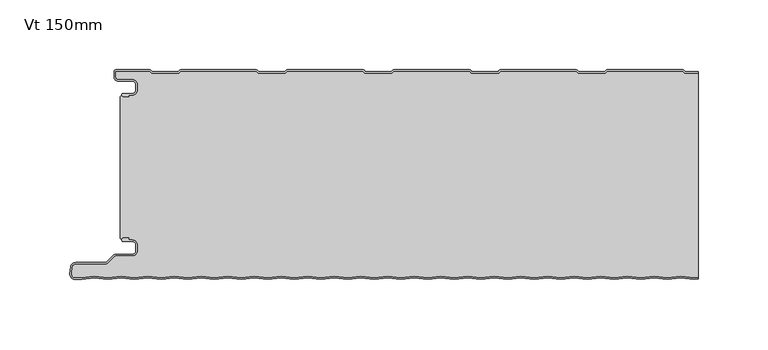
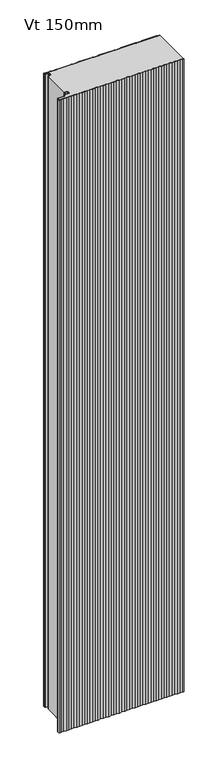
"""IFC4 building model written with IfcOpenShell, lengths in millimetres: plate geometry, KIP-MEX-KSS-1067-R19-CP-Vt-MR_SL : Vt 150mm."""

from ifc_helpers import new_model, si_unit, point, frame, frame_2d, origin, origin_with_axes, place, context, project, spatial, polyline, circle_curve, trimmed, segment, composite_curve, outline, extrude, source, transform, mapped, element, save
from ifc_brep_helpers import plane_surface, cylinder_surface, revolved_surface, advanced_brep


def vt_150mm_58a6ca3a(model_context):
    return source(origin(), model_context, "Body", "SolidModel", [
        advanced_brep(
        [(-204.468691, -17.0015159, 2400.0), (-205.4686883, -18.0015191, 2400.0), (-204.468691, -19.0015105, 2400.0), (-200.4684874, -19.0015105, 2400.0), (-200.4684874, -18.0015159, 2400.0), (-197.7762776, -18.0015159, 2400.0), (-194.4762819, -14.7015202, 2400.0), (-194.4762819, -10.301529, 2400.0), (-197.7762774, -7.0015335, 2400.0), (-208.1962563, -7.0015335, 2400.0), (-209.9662505, -5.2315393, 2400.0), (-209.9662505, -0.9999916, 2400.0), (-185.4659738, -0.9999916, 2400.0), (-184.0803312, -2.2002307, 2400.0), (-164.7051649, -2.2002307, 2400.0), (-163.319532, -1.0, 2400.0), (-109.2661166, -1.0, 2400.0), (-107.8804836, -2.2002307, 2400.0), (-88.5053173, -2.2002307, 2400.0), (-87.1196844, -1.0, 2400.0), (-33.066269, -1.0, 2400.0), (-31.680636, -2.2002307, 2400.0), (-12.3054697, -2.2002307, 2400.0), (-10.9198368, -1.0, 2400.0), (43.1335786, -1.0, 2400.0), (44.5192116, -2.2002307, 2400.0), (63.8943779, -2.2002307, 2400.0), (65.2800108, -1.0, 2400.0), (119.3334262, -1.0, 2400.0), (120.7190592, -2.2002307, 2400.0), (140.0942255, -2.2002307, 2400.0), (141.4798584, -1.0, 2400.0), (195.5332738, -1.0, 2400.0), (196.9189068, -2.2002307, 2400.0), (206.4999998, -2.2002307, 2400.0), (206.4999998, -1.2002307, 2400.0), (197.2917872, -1.2002307, 2400.0), (196.3007396, -0.3417885, 2400.0), (195.3841227, 0.0, 2400.0), (141.6290096, 0.0, 2400.0), (140.7123927, -0.3417885, 2400.0), (139.7213451, -1.2002307, 2400.0), (121.0919396, -1.2002307, 2400.0), (120.100892, -0.3417885, 2400.0), (119.1842751, 0.0, 2400.0), (65.429162, 0.0, 2400.0), (64.5125451, -0.3417885, 2400.0), (63.5214975, -1.2002307, 2400.0), (44.892092, -1.2002307, 2400.0), (43.9010444, -0.3417885, 2400.0), (42.9844275, 0.0, 2400.0), (-10.7706856, 0.0, 2400.0), (-11.6873025, -0.3417885, 2400.0), (-12.6783501, -1.2002307, 2400.0), (-31.3077556, -1.2002307, 2400.0), (-32.2988032, -0.3417885, 2400.0), (-33.2154201, 0.0, 2400.0), (-86.9705332, 0.0, 2400.0), (-87.8871501, -0.3417885, 2400.0), (-88.8781977, -1.2002307, 2400.0), (-107.5076032, -1.2002307, 2400.0), (-108.4986508, -0.3417885, 2400.0), (-109.4152677, 0.0, 2400.0), (-163.1703808, 0.0, 2400.0), (-164.0869977, -0.3417885, 2400.0), (-165.0780453, -1.2002307, 2400.0), (-183.7074508, -1.2002307, 2400.0), (-184.6984984, -0.3417885, 2400.0), (-185.6152067, 0.0, 2400.0), (-209.5662543, 8.4e-06, 2400.0), (-210.9662505, -1.3999878, 2400.0), (-210.9662505, -5.2315393, 2400.0), (-208.1962563, -8.0015335, 2400.0), (-197.7762774, -8.0015335, 2400.0), (-195.4762819, -10.301529, 2400.0), (-195.4762819, -14.7015202, 2400.0), (-197.7762776, -17.0015159, 2400.0), (-204.468691, -17.0015159, 0.0), (-197.7762776, -17.0015159, 0.0), (-195.4762819, -14.7015202, 0.0), (-195.4762819, -10.301529, 0.0), (-197.7762774, -8.0015335, 0.0), (-208.1962563, -8.0015335, 0.0), (-210.9662505, -5.2315393, 0.0), (-210.9662505, -1.3999878, 0.0), (-209.5662543, 8.4e-06, 0.0), (-185.6151153, 8.4e-06, 0.0), (-184.6984984, -0.3417885, 0.0), (-183.7074508, -1.2002307, 0.0), (-165.0780453, -1.2002307, 0.0), (-164.0869977, -0.3417885, 0.0), (-163.1703808, 0.0, 0.0), (-109.4152677, 0.0, 0.0), (-108.4986508, -0.3417885, 0.0), (-107.5076032, -1.2002307, 0.0), (-88.8781977, -1.2002307, 0.0), (-87.8871501, -0.3417885, 0.0), (-86.9705332, 0.0, 0.0), (-33.2154201, 0.0, 0.0), (-32.2988032, -0.3417885, 0.0), (-31.3077556, -1.2002307, 0.0), (-12.6783501, -1.2002307, 0.0), (-11.6873025, -0.3417885, 0.0), (-10.7706856, 0.0, 0.0), (42.9844275, 0.0, 0.0), (43.9010444, -0.3417885, 0.0), (44.892092, -1.2002307, 0.0), (63.5214975, -1.2002307, 0.0), (64.5125451, -0.3417885, 0.0), (65.429162, 0.0, 0.0), (119.1842751, 0.0, 0.0), (120.100892, -0.3417885, 0.0), (121.0919396, -1.2002307, 0.0), (139.7213451, -1.2002307, 0.0), (140.7123927, -0.3417885, 0.0), (141.6290096, 0.0, 0.0), (195.3841227, 0.0, 0.0), (196.3007396, -0.3417885, 0.0), (197.2917872, -1.2002307, 0.0), (206.4999998, -1.2002307, 0.0), (206.4999998, -2.2002307, 0.0), (196.9189068, -2.2002307, 0.0), (195.5332738, -1.0, 0.0), (141.4798584, -1.0, 0.0), (140.0942255, -2.2002307, 0.0), (120.7190592, -2.2002307, 0.0), (119.3334262, -1.0, 0.0), (65.2800108, -1.0, 0.0), (63.8943779, -2.2002307, 0.0), (44.5192116, -2.2002307, 0.0), (43.1335786, -1.0, 0.0), (-10.9198368, -1.0, 0.0), (-12.3054697, -2.2002307, 0.0), (-31.680636, -2.2002307, 0.0), (-33.066269, -1.0, 0.0), (-87.1196844, -1.0, 0.0), (-88.5053173, -2.2002307, 0.0), (-107.8804836, -2.2002307, 0.0), (-109.2661166, -1.0, 0.0), (-163.319532, -1.0, 0.0), (-164.7051649, -2.2002307, 0.0), (-184.0803312, -2.2002307, 0.0), (-185.4659738, -0.9999916, 0.0), (-209.9662505, -0.9999916, 0.0), (-209.9662505, -5.2315393, 0.0), (-208.1962563, -7.0015335, 0.0), (-197.7762774, -7.0015335, 0.0), (-194.4762819, -10.301529, 0.0), (-194.4762819, -14.7015202, 0.0), (-197.7762776, -18.0015159, 0.0), (-200.4684874, -18.0015159, 0.0), (-200.4684874, -19.0015105, 0.0), (-204.468691, -19.0015105, 0.0), (-205.4686882, -18.0015192, 0.0)],
        [
            (0, 1, circle_curve(frame((-204.468691, -18.0015132, 2400.0), z_axis=(0.0, 0.0, 1.0), x_axis=(1.0, 0.0, 0.0)), 0.9999973)),
            (1, 2, circle_curve(frame((-204.468691, -18.0015133, 2400.0), z_axis=(0.0, 0.0, 1.0), x_axis=(1.0, 0.0, 0.0)), 0.9999972)),
            (2, 3),
            (3, 4),
            (4, 5),
            (5, 6, circle_curve(frame((-197.7762776, -14.7015202, 2400.0), z_axis=(0.0, 0.0, 1.0), x_axis=(1.0, 0.0, 0.0)), 3.2999957)),
            (6, 7),
            (7, 8, circle_curve(frame((-197.7762774, -10.301529, 2400.0), z_axis=(0.0, 0.0, 1.0), x_axis=(1.0, 0.0, 0.0)), 3.2999955)),
            (8, 9),
            (9, 10, circle_curve(frame((-208.1962563, -5.2315393, 2400.0), z_axis=(0.0, 0.0, -1.0), x_axis=(1.0, 0.0, 0.0)), 1.7699942)),
            (10, 11),
            (11, 12),
            (12, 13),
            (13, 14),
            (14, 15),
            (15, 16),
            (16, 17),
            (17, 18),
            (18, 19),
            (19, 20),
            (20, 21),
            (21, 22),
            (22, 23),
            (23, 24),
            (24, 25),
            (25, 26),
            (26, 27),
            (27, 28),
            (28, 29),
            (29, 30),
            (30, 31),
            (31, 32),
            (32, 33),
            (33, 34),
            (34, 35),
            (35, 36),
            (36, 37),
            (37, 38, circle_curve(frame((195.3841227, -1.3999972, 2400.0), z_axis=(0.0, 0.0, 1.0), x_axis=(1.0, 0.0, 0.0)), 1.3999972)),
            (38, 39),
            (39, 40, circle_curve(frame((141.6290096, -1.3999972, 2400.0), z_axis=(0.0, 0.0, 1.0), x_axis=(1.0, 0.0, 0.0)), 1.3999972)),
            (40, 41),
            (41, 42),
            (42, 43),
            (43, 44, circle_curve(frame((119.1842751, -1.3999972, 2400.0), z_axis=(0.0, 0.0, 1.0), x_axis=(1.0, 0.0, 0.0)), 1.3999972)),
            (44, 45),
            (45, 46, circle_curve(frame((65.429162, -1.3999972, 2400.0), z_axis=(0.0, 0.0, 1.0), x_axis=(1.0, 0.0, 0.0)), 1.3999972)),
            (46, 47),
            (47, 48),
            (48, 49),
            (49, 50, circle_curve(frame((42.9844275, -1.3999972, 2400.0), z_axis=(0.0, 0.0, 1.0), x_axis=(1.0, 0.0, 0.0)), 1.3999972)),
            (50, 51),
            (51, 52, circle_curve(frame((-10.7706856, -1.3999972, 2400.0), z_axis=(0.0, 0.0, 1.0), x_axis=(1.0, 0.0, 0.0)), 1.3999972)),
            (52, 53),
            (53, 54),
            (54, 55),
            (55, 56, circle_curve(frame((-33.2154201, -1.3999972, 2400.0), z_axis=(0.0, 0.0, 1.0), x_axis=(1.0, 0.0, 0.0)), 1.3999972)),
            (56, 57),
            (57, 58, circle_curve(frame((-86.9705332, -1.3999972, 2400.0), z_axis=(0.0, 0.0, 1.0), x_axis=(1.0, 0.0, 0.0)), 1.3999972)),
            (58, 59),
            (59, 60),
            (60, 61),
            (61, 62, circle_curve(frame((-109.4152677, -1.3999972, 2400.0), z_axis=(0.0, 0.0, 1.0), x_axis=(1.0, 0.0, 0.0)), 1.3999972)),
            (62, 63),
            (63, 64, circle_curve(frame((-163.1703808, -1.3999972, 2400.0), z_axis=(0.0, 0.0, 1.0), x_axis=(1.0, 0.0, 0.0)), 1.3999972)),
            (64, 65),
            (65, 66),
            (66, 67),
            (67, 68, circle_curve(frame((-185.6151153, -1.3999972, 2400.0), z_axis=(0.0, 0.0, 1.0), x_axis=(1.0, 0.0, 0.0)), 1.3999972)),
            (68, 69),
            (69, 70, circle_curve(frame((-209.5662543, -1.3999878, 2400.0), z_axis=(0.0, 0.0, 1.0), x_axis=(1.0, 0.0, 0.0)), 1.3999962)),
            (70, 71),
            (71, 72, circle_curve(frame((-208.1962563, -5.2315393, 2400.0), z_axis=(0.0, 0.0, 1.0), x_axis=(1.0, 0.0, 0.0)), 2.7699942)),
            (72, 73),
            (73, 74, circle_curve(frame((-197.7762774, -10.301529, 2400.0), z_axis=(0.0, 0.0, -1.0), x_axis=(1.0, 0.0, 0.0)), 2.2999955)),
            (74, 75),
            (75, 76, circle_curve(frame((-197.7762776, -14.7015202, 2400.0), z_axis=(0.0, 0.0, -1.0), x_axis=(1.0, 0.0, 0.0)), 2.2999957)),
            (76, 0),
            (77, 78),
            (78, 79, circle_curve(frame((-197.7762776, -14.7015202, 0.0), z_axis=(0.0, 0.0, 1.0), x_axis=(1.0, 0.0, 0.0)), 2.2999957)),
            (79, 80),
            (80, 81, circle_curve(frame((-197.7762774, -10.301529, 0.0), z_axis=(0.0, 0.0, 1.0), x_axis=(1.0, 0.0, 0.0)), 2.2999955)),
            (81, 82),
            (82, 83, circle_curve(frame((-208.1962563, -5.2315393, 0.0), z_axis=(0.0, 0.0, -1.0), x_axis=(1.0, 0.0, 0.0)), 2.7699942)),
            (83, 84),
            (84, 85, circle_curve(frame((-209.5662543, -1.3999878, 0.0), z_axis=(0.0, 0.0, -1.0), x_axis=(1.0, 0.0, 0.0)), 1.3999962)),
            (85, 86),
            (86, 87, circle_curve(frame((-185.6151153, -1.3999972, 0.0), z_axis=(0.0, 0.0, -1.0), x_axis=(1.0, 0.0, 0.0)), 1.3999972)),
            (87, 88),
            (88, 89),
            (89, 90),
            (90, 91, circle_curve(frame((-163.1703808, -1.3999972, 0.0), z_axis=(0.0, 0.0, -1.0), x_axis=(1.0, 0.0, 0.0)), 1.3999972)),
            (91, 92),
            (92, 93, circle_curve(frame((-109.4152677, -1.3999972, 0.0), z_axis=(0.0, 0.0, -1.0), x_axis=(1.0, 0.0, 0.0)), 1.3999972)),
            (93, 94),
            (94, 95),
            (95, 96),
            (96, 97, circle_curve(frame((-86.9705332, -1.3999972, 0.0), z_axis=(0.0, 0.0, -1.0), x_axis=(1.0, 0.0, 0.0)), 1.3999972)),
            (97, 98),
            (98, 99, circle_curve(frame((-33.2154201, -1.3999972, 0.0), z_axis=(0.0, 0.0, -1.0), x_axis=(1.0, 0.0, 0.0)), 1.3999972)),
            (99, 100),
            (100, 101),
            (101, 102),
            (102, 103, circle_curve(frame((-10.7706856, -1.3999972, 0.0), z_axis=(0.0, 0.0, -1.0), x_axis=(1.0, 0.0, 0.0)), 1.3999972)),
            (103, 104),
            (104, 105, circle_curve(frame((42.9844275, -1.3999972, 0.0), z_axis=(0.0, 0.0, -1.0), x_axis=(1.0, 0.0, 0.0)), 1.3999972)),
            (105, 106),
            (106, 107),
            (107, 108),
            (108, 109, circle_curve(frame((65.429162, -1.3999972, 0.0), z_axis=(0.0, 0.0, -1.0), x_axis=(1.0, 0.0, 0.0)), 1.3999972)),
            (109, 110),
            (110, 111, circle_curve(frame((119.1842751, -1.3999972, 0.0), z_axis=(0.0, 0.0, -1.0), x_axis=(1.0, 0.0, 0.0)), 1.3999972)),
            (111, 112),
            (112, 113),
            (113, 114),
            (114, 115, circle_curve(frame((141.6290096, -1.3999972, 0.0), z_axis=(0.0, 0.0, -1.0), x_axis=(1.0, 0.0, 0.0)), 1.3999972)),
            (115, 116),
            (116, 117, circle_curve(frame((195.3841227, -1.3999972, 0.0), z_axis=(0.0, 0.0, -1.0), x_axis=(1.0, 0.0, 0.0)), 1.3999972)),
            (117, 118),
            (118, 119),
            (119, 120),
            (120, 121),
            (121, 122),
            (122, 123),
            (123, 124),
            (124, 125),
            (125, 126),
            (126, 127),
            (127, 128),
            (128, 129),
            (129, 130),
            (130, 131),
            (131, 132),
            (132, 133),
            (133, 134),
            (134, 135),
            (135, 136),
            (136, 137),
            (137, 138),
            (138, 139),
            (139, 140),
            (140, 141),
            (141, 142),
            (142, 143),
            (143, 144),
            (144, 145, circle_curve(frame((-208.1962563, -5.2315393, 0.0), z_axis=(0.0, 0.0, 1.0), x_axis=(1.0, 0.0, 0.0)), 1.7699942)),
            (145, 146),
            (146, 147, circle_curve(frame((-197.7762774, -10.301529, 0.0), z_axis=(0.0, 0.0, -1.0), x_axis=(1.0, 0.0, 0.0)), 3.2999955)),
            (147, 148),
            (148, 149, circle_curve(frame((-197.7762776, -14.7015202, 0.0), z_axis=(0.0, 0.0, -1.0), x_axis=(1.0, 0.0, 0.0)), 3.2999957)),
            (149, 150),
            (150, 151),
            (151, 152),
            (152, 153, circle_curve(frame((-204.468691, -18.0015133, 0.0), z_axis=(0.0, 0.0, -1.0), x_axis=(1.0, 0.0, 0.0)), 0.9999972)),
            (153, 77, circle_curve(frame((-204.468691, -18.0015132, 0.0), z_axis=(0.0, 0.0, -1.0), x_axis=(1.0, 0.0, 0.0)), 0.9999973)),
            (76, 78),
            (77, 0),
            (75, 79),
            (74, 80),
            (73, 81),
            (72, 82),
            (71, 83),
            (70, 84),
            (69, 85),
            (68, 86),
            (67, 87),
            (66, 88),
            (65, 89),
            (64, 90),
            (63, 91),
            (62, 92),
            (61, 93),
            (60, 94),
            (59, 95),
            (58, 96),
            (57, 97),
            (56, 98),
            (55, 99),
            (54, 100),
            (53, 101),
            (52, 102),
            (51, 103),
            (50, 104),
            (49, 105),
            (48, 106),
            (47, 107),
            (46, 108),
            (45, 109),
            (44, 110),
            (43, 111),
            (42, 112),
            (41, 113),
            (40, 114),
            (39, 115),
            (38, 116),
            (37, 117),
            (36, 118),
            (35, 119),
            (120, 34),
            (33, 121),
            (32, 122),
            (31, 123),
            (30, 124),
            (29, 125),
            (28, 126),
            (27, 127),
            (26, 128),
            (25, 129),
            (24, 130),
            (23, 131),
            (22, 132),
            (21, 133),
            (20, 134),
            (19, 135),
            (18, 136),
            (17, 137),
            (16, 138),
            (15, 139),
            (14, 140),
            (13, 141),
            (12, 142),
            (11, 143),
            (10, 144),
            (9, 145),
            (8, 146),
            (7, 147),
            (6, 148),
            (5, 149),
            (4, 150),
            (3, 151),
            (2, 152),
            (1, 153),
        ],
        [
            plane_surface(frame((326.9000002, 0.0, 2400.0), z_axis=(0.0, 0.0, 1.0), x_axis=(0.0, 1.0, 0.0))),
            plane_surface(frame((326.9000002, 0.0, 0.0), z_axis=(0.0, 0.0, -1.0), x_axis=(0.0, 1.0, 0.0))),
            plane_surface(frame((-204.468691, -17.0015159, 2400.0), z_axis=(0.0, 1.0, 0.0), x_axis=(0.0, 0.0, -1.0))),
            revolved_surface(polyline([(-195.47628189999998, -14.7015202, 0.0), (-195.47628189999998, -14.7015202, 2400.0)]), (-197.7762776, -14.7015202, 2400.0), (0.0, 0.0, -1.0)),
            plane_surface(frame((-195.4762819, -14.7015202, 2400.0), z_axis=(-1.0, 0.0, 0.0), x_axis=(0.0, 0.0, -1.0))),
            revolved_surface(polyline([(-195.4762819, -10.301529, 0.0), (-195.4762819, -10.301529, 2400.0)]), (-197.7762774, -10.301529, 2400.0), (0.0, 0.0, -1.0)),
            plane_surface(frame((-197.7762774, -8.0015335, 2400.0), z_axis=(0.0, -1.0, 0.0), x_axis=(0.0, 0.0, -1.0))),
            cylinder_surface(frame((-208.1962563, -5.2315393, 2400.0), z_axis=(0.0, 0.0, 1.0), x_axis=(1.0, 0.0, 0.0)), 2.7699942),
            plane_surface(frame((-210.9662505, -5.2315393, 2400.0), z_axis=(-1.0, 0.0, 0.0), x_axis=(0.0, 0.0, -1.0))),
            cylinder_surface(frame((-209.5662543, -1.3999878, 2400.0), z_axis=(0.0, 0.0, 1.0), x_axis=(1.0, 0.0, 0.0)), 1.3999962),
            plane_surface(frame((-209.5662543, 8.4e-06, 2400.0), z_axis=(0.0, 1.0, 0.0), x_axis=(0.0, 0.0, -1.0))),
            cylinder_surface(frame((-185.6151153, -1.3999972, 2400.0), z_axis=(0.0, 0.0, 1.0), x_axis=(1.0, 0.0, 0.0)), 1.3999972),
            plane_surface(frame((-184.6984984, -0.3417885, 2400.0), z_axis=(0.6547276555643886, 0.755864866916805, 0.0), x_axis=(0.0, 0.0, -1.0))),
            plane_surface(frame((-174.3927481, -1.2002307, 2400.0), z_axis=(0.0, 1.0, 0.0), x_axis=(0.0, 0.0, -1.0))),
            plane_surface(frame((-165.0780453, -1.2002307, 2400.0), z_axis=(-0.6547276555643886, 0.755864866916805, 0.0), x_axis=(0.0, 0.0, -1.0))),
            cylinder_surface(frame((-163.1703808, -1.3999972, 2400.0), z_axis=(0.0, 0.0, 1.0), x_axis=(1.0, 0.0, 0.0)), 1.3999972),
            plane_surface(frame((-163.1703808, 0.0, 2400.0), z_axis=(0.0, 1.0, 0.0), x_axis=(0.0, 0.0, -1.0))),
            cylinder_surface(frame((-109.4152677, -1.3999972, 2400.0), z_axis=(0.0, 0.0, 1.0), x_axis=(1.0, 0.0, 0.0)), 1.3999972),
            plane_surface(frame((-108.4986508, -0.3417885, 2400.0), z_axis=(0.6547276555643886, 0.755864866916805, 0.0), x_axis=(0.0, 0.0, -1.0))),
            plane_surface(frame((-98.1929005, -1.2002307, 2400.0), z_axis=(0.0, 1.0, 0.0), x_axis=(0.0, 0.0, -1.0))),
            plane_surface(frame((-88.8781977, -1.2002307, 2400.0), z_axis=(-0.6547276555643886, 0.755864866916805, 0.0), x_axis=(0.0, 0.0, -1.0))),
            cylinder_surface(frame((-86.9705332, -1.3999972, 2400.0), z_axis=(0.0, 0.0, 1.0), x_axis=(1.0, 0.0, 0.0)), 1.3999972),
            plane_surface(frame((-86.9705332, 0.0, 2400.0), z_axis=(0.0, 1.0, 0.0), x_axis=(0.0, 0.0, -1.0))),
            cylinder_surface(frame((-33.2154201, -1.3999972, 2400.0), z_axis=(0.0, 0.0, 1.0), x_axis=(1.0, 0.0, 0.0)), 1.3999972),
            plane_surface(frame((-32.2988032, -0.3417885, 2400.0), z_axis=(0.6547276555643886, 0.755864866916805, 0.0), x_axis=(0.0, 0.0, -1.0))),
            plane_surface(frame((-21.9930529, -1.2002307, 2400.0), z_axis=(0.0, 1.0, 0.0), x_axis=(0.0, 0.0, -1.0))),
            plane_surface(frame((-12.6783501, -1.2002307, 2400.0), z_axis=(-0.6547276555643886, 0.755864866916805, 0.0), x_axis=(0.0, 0.0, -1.0))),
            cylinder_surface(frame((-10.7706856, -1.3999972, 2400.0), z_axis=(0.0, 0.0, 1.0), x_axis=(1.0, 0.0, 0.0)), 1.3999972),
            plane_surface(frame((-10.7706856, 0.0, 2400.0), z_axis=(0.0, 1.0, 0.0), x_axis=(0.0, 0.0, -1.0))),
            cylinder_surface(frame((42.9844275, -1.3999972, 2400.0), z_axis=(0.0, 0.0, 1.0), x_axis=(1.0, 0.0, 0.0)), 1.3999972),
            plane_surface(frame((43.9010444, -0.3417885, 2400.0), z_axis=(0.6547276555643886, 0.755864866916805, 0.0), x_axis=(0.0, 0.0, -1.0))),
            plane_surface(frame((54.2067947, -1.2002307, 2400.0), z_axis=(0.0, 1.0, 0.0), x_axis=(0.0, 0.0, -1.0))),
            plane_surface(frame((63.5214975, -1.2002307, 2400.0), z_axis=(-0.6547276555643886, 0.755864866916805, 0.0), x_axis=(0.0, 0.0, -1.0))),
            cylinder_surface(frame((65.429162, -1.3999972, 2400.0), z_axis=(0.0, 0.0, 1.0), x_axis=(1.0, 0.0, 0.0)), 1.3999972),
            plane_surface(frame((65.429162, 0.0, 2400.0), z_axis=(0.0, 1.0, 0.0), x_axis=(0.0, 0.0, -1.0))),
            cylinder_surface(frame((119.1842751, -1.3999972, 2400.0), z_axis=(0.0, 0.0, 1.0), x_axis=(1.0, 0.0, 0.0)), 1.3999972),
            plane_surface(frame((120.100892, -0.3417885, 2400.0), z_axis=(0.6547276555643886, 0.755864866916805, 0.0), x_axis=(0.0, 0.0, -1.0))),
            plane_surface(frame((130.4066423, -1.2002307, 2400.0), z_axis=(0.0, 1.0, 0.0), x_axis=(0.0, 0.0, -1.0))),
            plane_surface(frame((139.7213451, -1.2002307, 2400.0), z_axis=(-0.6547276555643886, 0.755864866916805, 0.0), x_axis=(0.0, 0.0, -1.0))),
            cylinder_surface(frame((141.6290096, -1.3999972, 2400.0), z_axis=(0.0, 0.0, 1.0), x_axis=(1.0, 0.0, 0.0)), 1.3999972),
            plane_surface(frame((141.6290096, 0.0, 2400.0), z_axis=(0.0, 1.0, 0.0), x_axis=(0.0, 0.0, -1.0))),
            cylinder_surface(frame((195.3841227, -1.3999972, 2400.0), z_axis=(0.0, 0.0, 1.0), x_axis=(1.0, 0.0, 0.0)), 1.3999972),
            plane_surface(frame((196.3007396, -0.3417885, 2400.0), z_axis=(0.6547276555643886, 0.755864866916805, 0.0), x_axis=(0.0, 0.0, -1.0))),
            plane_surface(frame((206.6064899, -1.2002307, 2400.0), z_axis=(0.0, 1.0, 0.0), x_axis=(0.0, 0.0, -1.0))),
            plane_surface(frame((216.2940731, -2.2002307, 2400.0), z_axis=(0.0, -1.0, 0.0), x_axis=(0.0, 0.0, -1.0))),
            plane_surface(frame((196.9189068, -2.2002307, 2400.0), z_axis=(-0.6547276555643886, -0.755864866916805, 0.0), x_axis=(0.0, 0.0, -1.0))),
            plane_surface(frame((195.5332738, -1.0, 2400.0), z_axis=(0.0, -1.0, 0.0), x_axis=(0.0, 0.0, -1.0))),
            plane_surface(frame((141.4798584, -1.0, 2400.0), z_axis=(0.6547276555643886, -0.755864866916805, 0.0), x_axis=(0.0, 0.0, -1.0))),
            plane_surface(frame((140.0942255, -2.2002307, 2400.0), z_axis=(0.0, -1.0, 0.0), x_axis=(0.0, 0.0, -1.0))),
            plane_surface(frame((120.7190592, -2.2002307, 2400.0), z_axis=(-0.6547276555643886, -0.755864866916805, 0.0), x_axis=(0.0, 0.0, -1.0))),
            plane_surface(frame((119.3334262, -1.0, 2400.0), z_axis=(0.0, -1.0, 0.0), x_axis=(0.0, 0.0, -1.0))),
            plane_surface(frame((65.2800108, -1.0, 2400.0), z_axis=(0.6547276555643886, -0.755864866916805, 0.0), x_axis=(0.0, 0.0, -1.0))),
            plane_surface(frame((63.8943779, -2.2002307, 2400.0), z_axis=(0.0, -1.0, 0.0), x_axis=(0.0, 0.0, -1.0))),
            plane_surface(frame((44.5192116, -2.2002307, 2400.0), z_axis=(-0.6547276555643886, -0.755864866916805, 0.0), x_axis=(0.0, 0.0, -1.0))),
            plane_surface(frame((43.1335786, -1.0, 2400.0), z_axis=(0.0, -1.0, 0.0), x_axis=(0.0, 0.0, -1.0))),
            plane_surface(frame((-10.9198368, -1.0, 2400.0), z_axis=(0.6547276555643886, -0.755864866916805, 0.0), x_axis=(0.0, 0.0, -1.0))),
            plane_surface(frame((-12.3054697, -2.2002307, 2400.0), z_axis=(0.0, -1.0, 0.0), x_axis=(0.0, 0.0, -1.0))),
            plane_surface(frame((-31.680636, -2.2002307, 2400.0), z_axis=(-0.6547276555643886, -0.755864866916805, 0.0), x_axis=(0.0, 0.0, -1.0))),
            plane_surface(frame((-33.066269, -1.0, 2400.0), z_axis=(0.0, -1.0, 0.0), x_axis=(0.0, 0.0, -1.0))),
            plane_surface(frame((-87.1196844, -1.0, 2400.0), z_axis=(0.6547276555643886, -0.755864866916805, 0.0), x_axis=(0.0, 0.0, -1.0))),
            plane_surface(frame((-88.5053173, -2.2002307, 2400.0), z_axis=(0.0, -1.0, 0.0), x_axis=(0.0, 0.0, -1.0))),
            plane_surface(frame((-107.8804836, -2.2002307, 2400.0), z_axis=(-0.6547276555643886, -0.755864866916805, 0.0), x_axis=(0.0, 0.0, -1.0))),
            plane_surface(frame((-109.2661166, -1.0, 2400.0), z_axis=(0.0, -1.0, 0.0), x_axis=(0.0, 0.0, -1.0))),
            plane_surface(frame((-163.319532, -1.0, 2400.0), z_axis=(0.6547276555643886, -0.755864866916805, 0.0), x_axis=(0.0, 0.0, -1.0))),
            plane_surface(frame((-164.7051649, -2.2002307, 2400.0), z_axis=(0.0, -1.0, 0.0), x_axis=(0.0, 0.0, -1.0))),
            plane_surface(frame((-184.0803312, -2.2002307, 2400.0), z_axis=(-0.6547276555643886, -0.755864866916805, 0.0), x_axis=(0.0, 0.0, -1.0))),
            plane_surface(frame((-185.4659738, -0.9999916, 2400.0), z_axis=(0.0, -1.0, 0.0), x_axis=(0.0, 0.0, -1.0))),
            plane_surface(frame((-209.9662505, -0.9999916, 2400.0), z_axis=(1.0, 0.0, 0.0), x_axis=(0.0, 0.0, -1.0))),
            revolved_surface(polyline([(-206.42626209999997, -5.2315393, 0.0), (-206.42626209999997, -5.2315393, 2400.0)]), (-208.1962563, -5.2315393, 2400.0), (0.0, 0.0, -1.0)),
            plane_surface(frame((-208.1962563, -7.0015335, 2400.0), z_axis=(0.0, 1.0, 0.0), x_axis=(0.0, 0.0, -1.0))),
            cylinder_surface(frame((-197.7762774, -10.301529, 2400.0), z_axis=(0.0, 0.0, 1.0), x_axis=(1.0, 0.0, 0.0)), 3.2999955),
            plane_surface(frame((-194.4762819, -10.301529, 2400.0), z_axis=(1.0, 0.0, 0.0), x_axis=(0.0, 0.0, -1.0))),
            cylinder_surface(frame((-197.7762776, -14.7015202, 2400.0), z_axis=(0.0, 0.0, 1.0), x_axis=(1.0, 0.0, 0.0)), 3.2999957),
            plane_surface(frame((-197.7762776, -18.0015159, 2400.0), z_axis=(0.0, -1.0, 0.0), x_axis=(0.0, 0.0, -1.0))),
            plane_surface(frame((-200.4684874, -18.0015159, 2400.0), z_axis=(1.0, 0.0, 0.0), x_axis=(0.0, 0.0, -1.0))),
            plane_surface(frame((-200.4684874, -19.0015105, 2400.0), z_axis=(0.0, -1.0, 0.0), x_axis=(0.0, 0.0, -1.0))),
            cylinder_surface(frame((-204.468691, -18.0015133, 2400.0), z_axis=(0.0, 0.0, 1.0), x_axis=(1.0, 0.0, 0.0)), 0.9999972),
            cylinder_surface(frame((-204.468691, -18.0015132, 2400.0), z_axis=(0.0, 0.0, 1.0), x_axis=(1.0, 0.0, 0.0)), 0.9999973),
            plane_surface(frame((206.4999998, -160.0, 2400.0), z_axis=(1.0, 0.0, 0.0), x_axis=(0.0, 0.0, -1.0))),
        ],
        [
            (0, [[1, 2, 3, 4, 5, 6, 7, 8, 9, 10, 11, 12, 13, 14, 15, 16, 17, 18, 19, 20, 21, 22, 23, 24, 25, 26, 27, 28, 29, 30, 31, 32, 33, 34, 35, 36, 37, 38, 39, 40, 41, 42, 43, 44, 45, 46, 47, 48, 49, 50, 51, 52, 53, 54, 55, 56, 57, 58, 59, 60, 61, 62, 63, 64, 65, 66, 67, 68, 69, 70, 71, 72, 73, 74, 75, 76, 77]]),
            (1, [[78, 79, 80, 81, 82, 83, 84, 85, 86, 87, 88, 89, 90, 91, 92, 93, 94, 95, 96, 97, 98, 99, 100, 101, 102, 103, 104, 105, 106, 107, 108, 109, 110, 111, 112, 113, 114, 115, 116, 117, 118, 119, 120, 121, 122, 123, 124, 125, 126, 127, 128, 129, 130, 131, 132, 133, 134, 135, 136, 137, 138, 139, 140, 141, 142, 143, 144, 145, 146, 147, 148, 149, 150, 151, 152, 153, 154]]),
            (2, [[155, -78, 156, -77]]),
            (3, [[157, -79, -155, -76]]),
            (4, [[158, -80, -157, -75]]),
            (5, [[159, -81, -158, -74]]),
            (6, [[160, -82, -159, -73]]),
            (7, [[161, -83, -160, -72]]),
            (8, [[162, -84, -161, -71]]),
            (9, [[163, -85, -162, -70]]),
            (10, [[164, -86, -163, -69]]),
            (11, [[165, -87, -164, -68]]),
            (12, [[166, -88, -165, -67]]),
            (13, [[167, -89, -166, -66]]),
            (14, [[168, -90, -167, -65]]),
            (15, [[169, -91, -168, -64]]),
            (16, [[170, -92, -169, -63]]),
            (17, [[171, -93, -170, -62]]),
            (18, [[172, -94, -171, -61]]),
            (19, [[173, -95, -172, -60]]),
            (20, [[174, -96, -173, -59]]),
            (21, [[175, -97, -174, -58]]),
            (22, [[176, -98, -175, -57]]),
            (23, [[177, -99, -176, -56]]),
            (24, [[178, -100, -177, -55]]),
            (25, [[179, -101, -178, -54]]),
            (26, [[180, -102, -179, -53]]),
            (27, [[181, -103, -180, -52]]),
            (28, [[182, -104, -181, -51]]),
            (29, [[183, -105, -182, -50]]),
            (30, [[184, -106, -183, -49]]),
            (31, [[185, -107, -184, -48]]),
            (32, [[186, -108, -185, -47]]),
            (33, [[187, -109, -186, -46]]),
            (34, [[188, -110, -187, -45]]),
            (35, [[189, -111, -188, -44]]),
            (36, [[190, -112, -189, -43]]),
            (37, [[191, -113, -190, -42]]),
            (38, [[192, -114, -191, -41]]),
            (39, [[193, -115, -192, -40]]),
            (40, [[194, -116, -193, -39]]),
            (41, [[195, -117, -194, -38]]),
            (42, [[196, -118, -195, -37]]),
            (43, [[-36, 197, -119, -196]]),
            (44, [[-121, 198, -34, 199]]),
            (45, [[200, -122, -199, -33]]),
            (46, [[201, -123, -200, -32]]),
            (47, [[202, -124, -201, -31]]),
            (48, [[203, -125, -202, -30]]),
            (49, [[204, -126, -203, -29]]),
            (50, [[205, -127, -204, -28]]),
            (51, [[206, -128, -205, -27]]),
            (52, [[207, -129, -206, -26]]),
            (53, [[208, -130, -207, -25]]),
            (54, [[209, -131, -208, -24]]),
            (55, [[210, -132, -209, -23]]),
            (56, [[211, -133, -210, -22]]),
            (57, [[212, -134, -211, -21]]),
            (58, [[213, -135, -212, -20]]),
            (59, [[214, -136, -213, -19]]),
            (60, [[215, -137, -214, -18]]),
            (61, [[216, -138, -215, -17]]),
            (62, [[217, -139, -216, -16]]),
            (63, [[218, -140, -217, -15]]),
            (64, [[219, -141, -218, -14]]),
            (65, [[220, -142, -219, -13]]),
            (66, [[221, -143, -220, -12]]),
            (67, [[222, -144, -221, -11]]),
            (68, [[223, -145, -222, -10]]),
            (69, [[224, -146, -223, -9]]),
            (70, [[225, -147, -224, -8]]),
            (71, [[226, -148, -225, -7]]),
            (72, [[227, -149, -226, -6]]),
            (73, [[228, -150, -227, -5]]),
            (74, [[229, -151, -228, -4]]),
            (75, [[230, -152, -229, -3]]),
            (76, [[231, -153, -230, -2]]),
            (77, [[-156, -154, -231, -1]]),
            (78, [[-198, -120, -197, -35]]),
        ],
    ),
        extrude(outline(composite_curve([segment(polyline([(-215.4442791, -150.0), (-224.96926, -148.9411849), (-234.2447635, -149.9722676), (-238.9498353, -149.9722676)]), True, "CONTINUOUS"), segment(trimmed(circle_curve(frame_2d((-238.9521993, -146.4022755)), 3.5699929), [point((-238.9498353, -149.9722676))], [point((-242.5086073, -146.0911302))], False, "CARTESIAN"), True, "CONTINUOUS"), segment(polyline([(-242.5086073, -146.0911302), (-242.0690674, -141.0671659)]), True, "CONTINUOUS"), segment(trimmed(circle_curve(frame_2d((-238.4198391, -141.677967)), 3.6999926), [point((-242.0690674, -141.0671659))], [point((-238.4198391, -137.9779744))], False, "CARTESIAN"), True, "CONTINUOUS"), segment(polyline([(-238.4198391, -137.9779744), (-217.2773995, -137.9779744)]), True, "CONTINUOUS"), segment(trimmed(circle_curve(frame_2d((-217.2773995, -136.677977)), 1.2999974), [point((-217.2773995, -137.9779744))], [point((-216.3581626, -137.597214))], True, "CARTESIAN"), True, "CONTINUOUS"), segment(polyline([(-216.3581626, -137.597214), (-211.5297451, -132.7687965)]), True, "CONTINUOUS"), segment(trimmed(circle_curve(frame_2d((-209.6205606, -134.677981)), 2.6999946), [point((-211.5297451, -132.7687965))], [point((-209.6205606, -131.9779864))], False, "CARTESIAN"), True, "CONTINUOUS"), segment(polyline([(-209.6205606, -131.9779864), (-197.8096715, -131.9779864)]), True, "CONTINUOUS"), segment(trimmed(circle_curve(frame_2d((-197.8096715, -129.6279911)), 2.3499953), [point((-197.8096715, -131.9779864))], [point((-195.4596762, -129.6279911))], True, "CARTESIAN"), True, "CONTINUOUS"), segment(polyline([(-195.4596762, -129.6279911), (-195.4596762, -125.2279999)]), True, "CONTINUOUS"), segment(trimmed(circle_curve(frame_2d((-197.8096715, -125.2279999)), 2.3499953), [point((-195.4596762, -125.2279999))], [point((-197.8096715, -122.8780046))], True, "CARTESIAN"), True, "CONTINUOUS"), segment(polyline([(-197.8096715, -122.8780046), (-204.3289777, -122.8780046)]), True, "CONTINUOUS"), segment(trimmed(circle_curve(frame_2d((-204.2686906, -121.6795224)), 1.1999976), [point((-204.3289777, -122.8780046))], [point((-205.4682903, -121.6486225))], False, "CARTESIAN"), True, "CONTINUOUS"), segment(trimmed(circle_curve(frame_2d((-204.2686906, -121.6795224)), 1.1999976), [point((-205.4682903, -121.6486225))], [point((-204.267176, -120.4795257))], False, "CARTESIAN"), True, "CONTINUOUS"), segment(polyline([(-204.267176, -120.4795257), (-200.5087826, -120.4795257), (-200.5087826, -121.8780046), (-197.8096715, -121.8780046)]), True, "CONTINUOUS"), segment(trimmed(circle_curve(frame_2d((-197.8096715, -125.2279999)), 3.3499953), [point((-197.8096715, -121.8780046))], [point((-194.4596762, -125.2279999))], False, "CARTESIAN"), True, "CONTINUOUS"), segment(polyline([(-194.4596762, -125.2279999), (-194.4596762, -129.6279911)]), True, "CONTINUOUS"), segment(trimmed(circle_curve(frame_2d((-197.8096715, -129.6279911)), 3.3499953), [point((-194.4596762, -129.6279911))], [point((-197.8096715, -132.9779864))], False, "CARTESIAN"), True, "CONTINUOUS"), segment(polyline([(-197.8096715, -132.9779864), (-209.6205606, -132.9779864)]), True, "CONTINUOUS"), segment(trimmed(circle_curve(frame_2d((-209.6205606, -134.677981)), 1.6999946), [point((-209.6205606, -132.9779864))], [point((-210.8226383, -133.4759033))], True, "CARTESIAN"), True, "CONTINUOUS"), segment(polyline([(-210.8226383, -133.4759033), (-215.6510558, -138.3043208)]), True, "CONTINUOUS"), segment(trimmed(circle_curve(frame_2d((-217.2773995, -136.677977)), 2.2999974), [point((-215.6510558, -138.3043208))], [point((-217.2773995, -138.9779744))], False, "CARTESIAN"), True, "CONTINUOUS"), segment(polyline([(-217.2773995, -138.9779744), (-238.4198391, -138.9779744)]), True, "CONTINUOUS"), segment(trimmed(circle_curve(frame_2d((-238.4198391, -141.677967)), 2.6999926), [point((-238.4198391, -138.9779744))], [point((-241.0765683, -141.1965632))], True, "CARTESIAN"), True, "CONTINUOUS"), segment(polyline([(-241.0765683, -141.1965632), (-241.5124126, -146.1782859)]), True, "CONTINUOUS"), segment(trimmed(circle_curve(frame_2d((-238.9521993, -146.4022755)), 2.5699929), [point((-241.5124126, -146.1782859))], [point((-238.9501935, -148.9722676))], True, "CARTESIAN"), True, "CONTINUOUS"), segment(polyline([(-238.9501935, -148.9722676), (-234.3001738, -148.9722676), (-224.96926, -147.9350254), (-215.4442791, -148.9938405), (-205.9192981, -147.9350254), (-196.3943172, -148.9938405), (-186.8693362, -147.9350254), (-177.3443553, -148.9938405), (-167.8193743, -147.9350254), (-158.2943934, -148.9938405), (-148.7694124, -147.9350254), (-139.2444315, -148.9938405), (-129.7194505, -147.9350254), (-120.1944696, -148.9938405), (-110.6694886, -147.9350254), (-101.1445077, -148.9938405), (-91.6195267, -147.9350254), (-82.0945458, -148.9938405), (-72.5695648, -147.9350254), (-63.0445839, -148.9938405), (-53.5196029, -147.9350254), (-43.994622, -148.9938405), (-34.469641, -147.9350254), (-24.9446601, -148.9938405), (-15.4196791, -147.9350254), (-5.8946982, -148.9938405), (3.6302828, -147.9350254), (13.1552637, -148.9938405), (22.6802447, -147.9350254), (32.2052256, -148.9938405), (41.7302066, -147.9350254), (51.2551875, -148.9938405), (60.7801685, -147.9350254), (70.3051494, -148.9938405), (79.8301304, -147.9350254), (89.3551113, -148.9938405), (98.8800923, -147.9350254), (108.4050732, -148.9938405), (117.9300542, -147.9350254), (127.4550351, -148.9938405), (136.9800161, -147.9350254), (146.504997, -148.9938405), (156.029978, -147.9350254), (165.5549589, -148.9938405), (175.0799399, -147.9350254), (184.6049208, -148.9938405), (194.1299018, -147.9350254), (203.6548827, -148.9938405), (206.4999998, -148.6775718), (206.4999998, -149.6837313), (203.6548827, -150.0), (194.1299018, -148.9411849), (184.6049208, -150.0), (175.0799399, -148.9411849), (165.5549589, -150.0), (156.029978, -148.9411849), (146.504997, -150.0), (136.9800161, -148.9411849), (127.4550351, -150.0), (117.9300542, -148.9411849), (108.4050732, -150.0), (98.8800923, -148.9411849), (89.3551113, -150.0), (79.8301304, -148.9411849), (70.3051494, -150.0), (60.7801685, -148.9411849), (51.2551875, -150.0), (41.7302066, -148.9411849), (32.2052256, -150.0), (22.6802447, -148.9411849), (13.1552637, -150.0), (3.6302828, -148.9411849), (-5.8946982, -150.0), (-15.4196791, -148.9411849), (-24.9446601, -150.0), (-34.469641, -148.9411849), (-43.994622, -150.0), (-53.5196029, -148.9411849), (-63.0445839, -150.0), (-72.5695648, -148.9411849), (-82.0945458, -150.0), (-91.6195267, -148.9411849), (-101.1445077, -150.0), (-110.6694886, -148.9411849), (-120.1944696, -150.0), (-129.7194505, -148.9411849), (-139.2444315, -150.0), (-148.7694124, -148.9411849), (-158.2943934, -150.0), (-167.8193743, -148.9411849), (-177.3443553, -150.0), (-186.8693362, -148.9411849), (-196.3943172, -150.0), (-205.9192981, -148.9411849), (-215.4442791, -150.0)]), True, "CONTINUOUS")], self_intersect=False)), origin_with_axes(), (0.0, 0.0, 1.0), 2400.0),
        extrude(outline(composite_curve([segment(trimmed(circle_curve(frame_2d((-197.8096715, -125.2341594)), 3.3499953), [point((-194.4596762, -125.2341594))], [point((-197.8096715, -121.8841641))], True, "CARTESIAN"), True, "CONTINUOUS"), segment(polyline([(-197.8096715, -121.8841641), (-200.5087826, -121.8841641), (-200.5087826, -120.4856852), (-204.267176, -120.4856852)]), True, "CONTINUOUS"), segment(trimmed(circle_curve(frame_2d((-204.2686906, -121.6856819)), 1.1999976), [point((-204.267176, -120.4856852))], [point((-205.4682903, -121.654782))], True, "CARTESIAN"), True, "CONTINUOUS"), segment(polyline([(-205.4682903, -121.654782), (-206.4999998, -120.6230724), (-206.4999998, -19.0328308), (-205.4686882, -18.0015192)]), True, "CONTINUOUS"), segment(trimmed(circle_curve(frame_2d((-204.468691, -18.0015133)), 0.9999972), [point((-205.4686882, -18.0015192))], [point((-204.468691, -19.0015105))], True, "CARTESIAN"), True, "CONTINUOUS"), segment(polyline([(-204.468691, -19.0015105), (-200.4684873, -19.0015105), (-200.4684873, -18.0015159), (-197.7762775, -18.0015159)]), True, "CONTINUOUS"), segment(trimmed(circle_curve(frame_2d((-197.7762775, -14.7015202)), 3.2999957), [point((-197.7762775, -18.0015159))], [point((-194.4762818, -14.7015202))], True, "CARTESIAN"), True, "CONTINUOUS"), segment(polyline([(-194.4762818, -14.7015202), (-194.4762818, -10.301529)]), True, "CONTINUOUS"), segment(trimmed(circle_curve(frame_2d((-197.7762777, -10.301529)), 3.2999959), [point((-194.4762818, -10.301529))], [point((-197.7762777, -7.0015331))], True, "CARTESIAN"), True, "CONTINUOUS"), segment(polyline([(-197.7762777, -7.0015331), (-208.1962562, -7.0015331)]), True, "CONTINUOUS"), segment(trimmed(circle_curve(frame_2d((-208.1962562, -5.2315389)), 1.7699942), [point((-208.1962562, -7.0015331))], [point((-209.9662504, -5.2315389))], False, "CARTESIAN"), True, "CONTINUOUS"), segment(polyline([(-209.9662504, -5.2315389), (-209.9662504, -0.9999916), (-185.4659738, -0.9999916), (-184.0803312, -2.2002307), (-164.7051649, -2.2002307), (-163.3195319, -1.0), (-109.2661165, -1.0), (-107.8804836, -2.2002307), (-88.5053173, -2.2002307), (-87.1196843, -1.0), (-33.0662689, -1.0), (-31.680636, -2.2002307), (-12.3054697, -2.2002307), (-10.9198367, -1.0), (43.1335787, -1.0), (44.5192116, -2.2002307), (63.8943779, -2.2002307), (65.2800109, -1.0), (119.3334263, -1.0), (120.7190592, -2.2002307), (140.0942255, -2.2002307), (141.4798585, -1.0), (195.5332739, -1.0), (196.9189068, -2.2002307), (206.4999998, -2.2002307), (206.4999998, -148.6837313), (203.6548827, -149.0), (194.1299018, -147.9411849), (184.6049208, -149.0), (175.0799399, -147.9411849), (165.5549589, -149.0), (156.029978, -147.9411849), (146.504997, -149.0), (136.9800161, -147.9411849), (127.4550351, -149.0), (117.9300542, -147.9411849), (108.4050732, -149.0), (98.8800923, -147.9411849), (89.3551113, -149.0), (79.8301304, -147.9411849), (70.3051494, -149.0), (60.7801685, -147.9411849), (51.2551875, -149.0), (41.7302066, -147.9411849), (32.2052256, -149.0), (22.6802447, -147.9411849), (13.1552637, -149.0), (3.6302828, -147.9411849), (-5.8946982, -149.0), (-15.4196791, -147.9411849), (-24.9446601, -149.0), (-34.469641, -147.9411849), (-43.994622, -149.0), (-53.5196029, -147.9411849), (-63.0445839, -149.0), (-72.5695648, -147.9411849), (-82.0945458, -149.0), (-91.6195267, -147.9411849), (-101.1445077, -149.0), (-110.6694886, -147.9411849), (-120.1944696, -149.0), (-129.7194505, -147.9411849), (-139.2444315, -149.0), (-148.7694124, -147.9411849), (-158.2943934, -149.0), (-167.8193743, -147.9411849), (-177.3443553, -149.0), (-186.8693362, -147.9411849), (-196.3943172, -149.0), (-205.9192981, -147.9411849), (-215.4442791, -149.0), (-224.96926, -147.9411849), (-234.3001738, -148.9784271), (-238.9501935, -148.9784271)]), True, "CONTINUOUS"), segment(trimmed(circle_curve(frame_2d((-238.9521993, -146.4084351)), 2.5699929), [point((-238.9501935, -148.9784271))], [point((-241.5124126, -146.1844454))], False, "CARTESIAN"), True, "CONTINUOUS"), segment(polyline([(-241.5124126, -146.1844454), (-241.0765683, -141.2027227)]), True, "CONTINUOUS"), segment(trimmed(circle_curve(frame_2d((-238.4198391, -141.6841265)), 2.6999926), [point((-241.0765683, -141.2027227))], [point((-238.4198391, -138.9841339))], False, "CARTESIAN"), True, "CONTINUOUS"), segment(polyline([(-238.4198391, -138.9841339), (-217.2773995, -138.9841339)]), True, "CONTINUOUS"), segment(trimmed(circle_curve(frame_2d((-217.2773995, -136.6841365)), 2.2999974), [point((-217.2773995, -138.9841339))], [point((-215.6510558, -138.3104803))], True, "CARTESIAN"), True, "CONTINUOUS"), segment(polyline([(-215.6510558, -138.3104803), (-210.8226383, -133.4820628)]), True, "CONTINUOUS"), segment(trimmed(circle_curve(frame_2d((-209.6205606, -134.6841405)), 1.6999946), [point((-210.8226383, -133.4820628))], [point((-209.6205606, -132.9841459))], False, "CARTESIAN"), True, "CONTINUOUS"), segment(polyline([(-209.6205606, -132.9841459), (-197.8096715, -132.9841459)]), True, "CONTINUOUS"), segment(trimmed(circle_curve(frame_2d((-197.8096715, -129.6341506)), 3.3499953), [point((-197.8096715, -132.9841459))], [point((-194.4596762, -129.6341506))], True, "CARTESIAN"), True, "CONTINUOUS"), segment(polyline([(-194.4596762, -129.6341506), (-194.4596762, -125.2341594)]), True, "CONTINUOUS")], self_intersect=False)), origin_with_axes(), (0.0, 0.0, 1.0), 2400.0),
    ])


if __name__ == "__main__":
    model = new_model("IFC4")
    model_context = context("Model", 3, world=origin())
    ifc_project = project(units=[si_unit("LENGTHUNIT", "METRE", prefix="MILLI")], contexts=[model_context])
    site = spatial("IfcSite", under=ifc_project)
    building = spatial("IfcBuilding", under=site)
    placement = place(None, origin())
    vt_150mm_shape = vt_150mm_58a6ca3a(model_context)
    element("IfcPlate", 1, ObjectType="KIP-MEX-KSS-1067-R19-CP-Vt-MR_SL : Vt 150mm", at=placement, inside=building, context=model_context, shape_type="MappedRepresentation", body=[
        mapped(vt_150mm_shape, transform((0.0, 0.0, 0.0), x_axis=(1.0, 0.0, 0.0), y_axis=(0.0, 1.0, 0.0), z_axis=(0.0, 0.0, 1.0))),
    ])
    save(model, "model.ifc")
